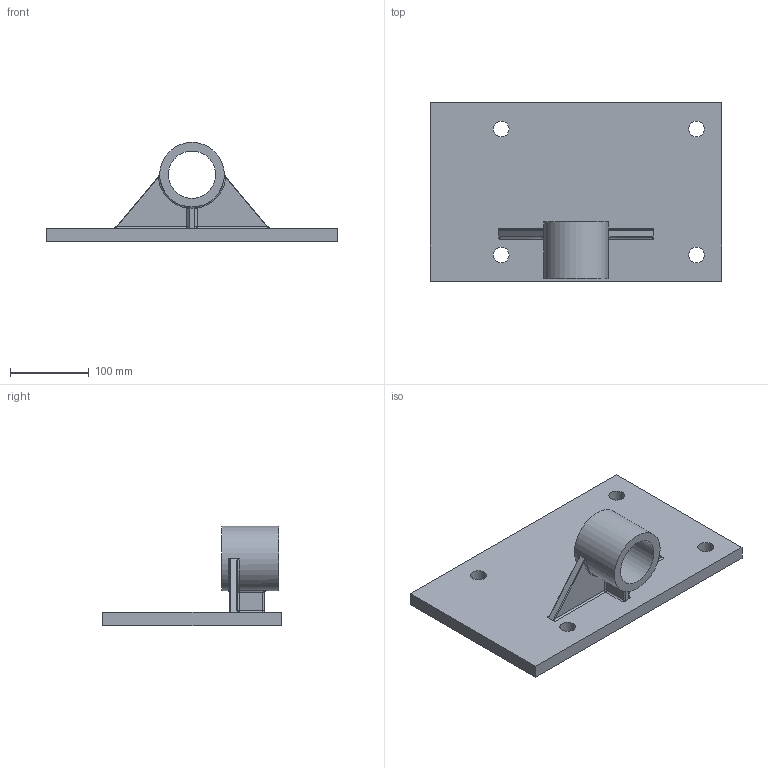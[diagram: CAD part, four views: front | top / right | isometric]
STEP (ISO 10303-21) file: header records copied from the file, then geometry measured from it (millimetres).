
FILE_DESCRIPTION((''),'2;1');
FILE_NAME('D:\PAWEŁ\ZLECENIA\DualSystem\001 Modele\DKAB90_\DK_90_STEP\AT_90.stp','2011-11-26T10:02:25',('Pawe'),(''),'Autodesk Inventor 2009','Autodesk Inventor 2009','');
FILE_SCHEMA(('AUTOMOTIVE_DESIGN { 1 0 10303 214 1 1 1 1 }'));
Length unit declared in the file: millimetre
Products named in the file (1): AT_90
Bounding box: 370 x 226 x 126 mm (x, y, z)
Volume: 1654775.9 mm3; surface area: 238748.2 mm2
Topology: 1 solids, 1 shells, 59 faces, 142 edges, 82 vertices
Faces by surface type: cylinder 21, bspline 20, plane 16, torus 2
Full cylindrical faces by diameter (mm): 20 x4, 60 x1, 82 x1
Entity records: 3241 total; most frequent: CARTESIAN_POINT 1953, ORIENTED_EDGE 262, DIRECTION 243, EDGE_CURVE 131, AXIS2_PLACEMENT_3D 98, VERTEX_POINT 82, EDGE_LOOP 77, FACE_OUTER_BOUND 59
